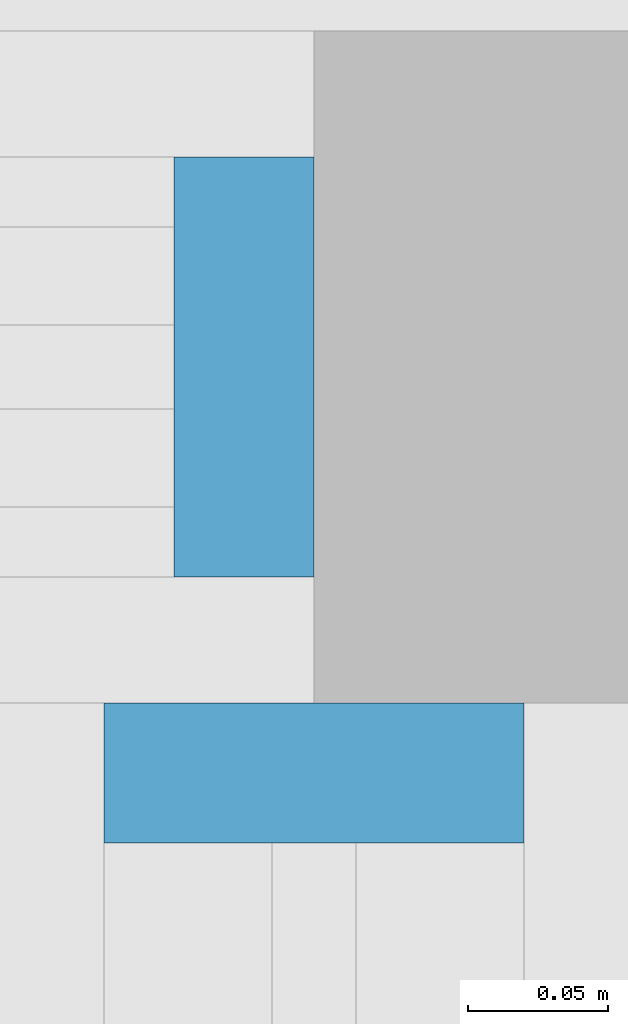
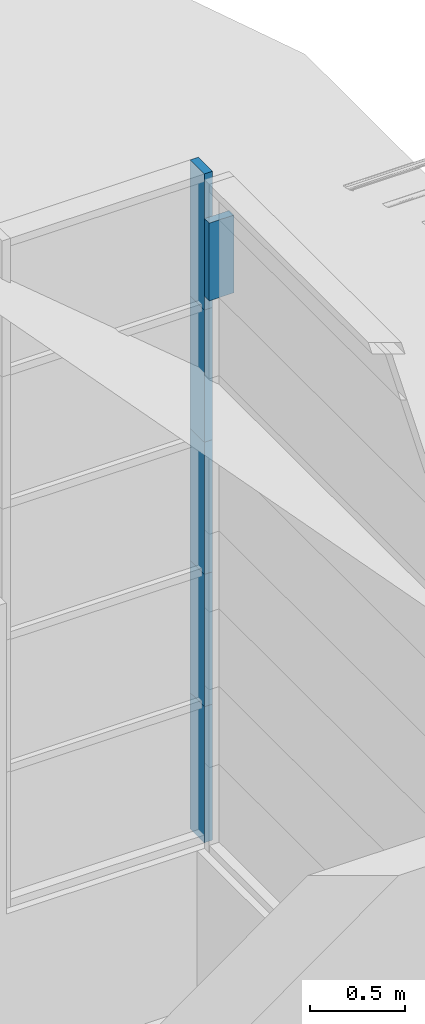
# One storey, part 33 of 82: 6 members, 2 elements without a shape of their own.
"""IFC2X3 building model written with IfcOpenShell, lengths in millimetres."""

from ifc_helpers import new_model, entity, si_unit, converted_unit, derived_unit, direction, frame, origin, origin_2d_with_axis, place, context, subcontext, project, spatial, rectangle, extrude, source, transform, mapped, material, type_object, type_shapes, element, aggregate, save


model = new_model("IFC2X3")

# Units and contexts
model_context = context("Model", 3, precision=0.01, world=origin(), true_north=direction((6.12303176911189e-17, 1.0)))
body_context = subcontext(model_context, "Body", "Model", "MODEL_VIEW")
ifc_project = project(units=[si_unit("LENGTHUNIT", "METRE", prefix="MILLI"), si_unit("AREAUNIT", "SQUARE_METRE"), si_unit("VOLUMEUNIT", "CUBIC_METRE"), converted_unit("PLANEANGLEUNIT", "DEGREE", entity("IfcRatioMeasure", 0.0174532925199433), si_unit("PLANEANGLEUNIT", "RADIAN"), dimensions=[0, 0, 0, 0, 0, 0, 0]), si_unit("MASSUNIT", "GRAM", prefix="KILO"), derived_unit("MASSDENSITYUNIT", [(si_unit("MASSUNIT", "GRAM", prefix="KILO"), 1), (si_unit("LENGTHUNIT", "METRE"), -3)]), si_unit("TIMEUNIT", "SECOND"), si_unit("FREQUENCYUNIT", "HERTZ"), si_unit("THERMODYNAMICTEMPERATUREUNIT", "DEGREE_CELSIUS"), derived_unit("THERMALTRANSMITTANCEUNIT", [(si_unit("MASSUNIT", "GRAM", prefix="KILO"), 1), (si_unit("THERMODYNAMICTEMPERATUREUNIT", "KELVIN"), -1), (si_unit("TIMEUNIT", "SECOND"), -3)]), derived_unit("VOLUMETRICFLOWRATEUNIT", [(si_unit("LENGTHUNIT", "METRE"), 3), (si_unit("TIMEUNIT", "SECOND"), -1)]), si_unit("ELECTRICCURRENTUNIT", "AMPERE"), si_unit("ELECTRICVOLTAGEUNIT", "VOLT"), si_unit("POWERUNIT", "WATT"), si_unit("FORCEUNIT", "NEWTON", prefix="KILO"), si_unit("ILLUMINANCEUNIT", "LUX"), si_unit("LUMINOUSFLUXUNIT", "LUMEN"), si_unit("LUMINOUSINTENSITYUNIT", "CANDELA"), derived_unit("USERDEFINED", [(si_unit("MASSUNIT", "GRAM", prefix="KILO"), -1), (si_unit("LENGTHUNIT", "METRE"), -2), (si_unit("TIMEUNIT", "SECOND"), 3), (si_unit("LUMINOUSFLUXUNIT", "LUMEN"), 1)]), derived_unit("LINEARVELOCITYUNIT", [(si_unit("LENGTHUNIT", "METRE"), 1), (si_unit("TIMEUNIT", "SECOND"), -1)]), si_unit("PRESSUREUNIT", "PASCAL"), derived_unit("USERDEFINED", [(si_unit("LENGTHUNIT", "METRE"), -2), (si_unit("MASSUNIT", "GRAM", prefix="KILO"), 1), (si_unit("TIMEUNIT", "SECOND"), -2)])], contexts=[model_context])

# Site, building, storey
site_placement = place(None, origin())
site = spatial("IfcSite", under=ifc_project, at=site_placement, Name="表面", CompositionType="ELEMENT")
building_placement = place(site_placement, origin())
building = spatial("IfcBuilding", under=site, at=building_placement, CompositionType="ELEMENT")
storey_placement = place(building_placement, origin())
storey = spatial("IfcBuildingStorey", under=building, at=storey_placement, Name="1F", CompositionType="ELEMENT", Elevation=0.0)

# Curtain wall, member
curtain_wall_type_1 = type_object("IfcCurtainWallType", Name="幕墙:幕墙 1", PredefinedType="NOTDEFINED")
curtain_wall_1_placement = place(storey_placement, origin())
curtain_wall_1 = element("IfcCurtainWall", 1, at=curtain_wall_1_placement, inside=storey, type_object=curtain_wall_type_1, Name="幕墙:幕墙 1", ObjectType="幕墙:幕墙 1")
ifc_material = material(Name="金属 - 铝")
member_type_1 = type_object("IfcMemberType", Name="50 x 150mm", PredefinedType="MEMBER")
shared_shape_1 = source(origin(), body_context, "Body", "SweptSolid", [
    extrude(rectangle(XDim=150.0, YDim=50.0, at=origin_2d_with_axis()), frame((-25.0, 0.0, -500.0), z_axis=(0.0, 0.0, 1.0), x_axis=(0.0, -1.0, 0.0)), (0.0, 0.0, 1.0), 500.0),
])
type_shapes(member_type_1, [shared_shape_1])
member_1_placement = place(storey_placement, frame((-5230.24991264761, -2436.868426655, 5050.0), z_axis=(0.0, 0.0, 1.0), x_axis=(0.0, 1.0, 0.0)))
member_1 = element("IfcMember", 2, at=member_1_placement, type_object=member_type_1, material=ifc_material, Name="矩形竖梃:50 x 150mm", ObjectType="50 x 150mm", context=body_context, shape_type="MappedRepresentation", body=[
    mapped(shared_shape_1, transform((0.0, 0.0, 0.0), scale=1.0)),
])
aggregate(curtain_wall_1, [member_1])

# Curtain wall, members
curtain_wall_type_2 = type_object("IfcCurtainWallType", Name="幕墙:幕墙 5", PredefinedType="NOTDEFINED")
curtain_wall_2_placement = place(storey_placement, origin())
curtain_wall_2 = element("IfcCurtainWall", 3, at=curtain_wall_2_placement, inside=storey, type_object=curtain_wall_type_2, Name="幕墙:幕墙 5", ObjectType="幕墙:幕墙 5")
member_type_2 = type_object("IfcMemberType", Name="50 x 150mm", PredefinedType="MEMBER")
shared_shape_2 = source(origin(), body_context, "Body", "SweptSolid", [
    extrude(rectangle(XDim=150.0, YDim=50.0, at=origin_2d_with_axis()), frame((-25.0, 0.0, -875.0), z_axis=(0.0, 0.0, 1.0), x_axis=(0.0, -1.0, 0.0)), (0.0, 0.0, 1.0), 875.0),
])
type_shapes(member_type_2, [shared_shape_2])
member_2_placement = place(storey_placement, frame((-5230.24991264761, -2316.868426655, 1000.0), z_axis=(0.0, 0.0, -1.0), x_axis=(1.0, 0.0, 0.0)))
member_2 = element("IfcMember", 4, at=member_2_placement, type_object=member_type_2, material=ifc_material, Name="矩形竖梃:50 x 150mm", ObjectType="50 x 150mm", context=body_context, shape_type="MappedRepresentation", body=[
    mapped(shared_shape_2, transform((0.0, 0.0, 0.0), scale=1.0)),
])
member_type_3 = type_object("IfcMemberType", Name="50 x 150mm", PredefinedType="MEMBER")
shared_shape_3 = source(origin(), body_context, "Body", "SweptSolid", [
    extrude(rectangle(XDim=150.0, YDim=50.0, at=origin_2d_with_axis()), frame((-25.0, 0.0, -850.0), z_axis=(0.0, 0.0, 1.0), x_axis=(0.0, -1.0, 0.0)), (0.0, 0.0, 1.0), 850.0),
])
type_shapes(member_type_3, [shared_shape_3])
member_3_placement = place(storey_placement, frame((-5230.24991264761, -2316.868426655, 1875.0), z_axis=(0.0, 0.0, -1.0), x_axis=(1.0, 0.0, 0.0)))
member_3 = element("IfcMember", 5, at=member_3_placement, type_object=member_type_3, material=ifc_material, Name="矩形竖梃:50 x 150mm", ObjectType="50 x 150mm", context=body_context, shape_type="MappedRepresentation", body=[
    mapped(shared_shape_3, transform((0.0, 0.0, 0.0), scale=1.0)),
])
member_4_placement = place(storey_placement, frame((-5230.24991264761, -2316.868426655, 2725.0), z_axis=(0.0, 0.0, -1.0), x_axis=(1.0, 0.0, 0.0)))
member_4 = element("IfcMember", 6, at=member_4_placement, type_object=member_type_3, material=ifc_material, Name="矩形竖梃:50 x 150mm", ObjectType="50 x 150mm", context=body_context, shape_type="MappedRepresentation", body=[
    mapped(shared_shape_3, transform((0.0, 0.0, 0.0), scale=1.0)),
])
member_5_placement = place(storey_placement, frame((-5230.24991264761, -2316.868426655, 3575.0), z_axis=(0.0, 0.0, -1.0), x_axis=(1.0, 0.0, 0.0)))
member_5 = element("IfcMember", 7, at=member_5_placement, type_object=member_type_3, material=ifc_material, Name="矩形竖梃:50 x 150mm", ObjectType="50 x 150mm", context=body_context, shape_type="MappedRepresentation", body=[
    mapped(shared_shape_3, transform((0.0, 0.0, 0.0), scale=1.0)),
])
member_type_4 = type_object("IfcMemberType", Name="50 x 150mm", PredefinedType="MEMBER")
shared_shape_4 = source(origin(), body_context, "Body", "SweptSolid", [
    extrude(rectangle(XDim=150.0, YDim=50.0, at=origin_2d_with_axis()), frame((-25.0, 0.0, -875.0), z_axis=(0.0, 0.0, 1.0), x_axis=(0.0, -1.0, 0.0)), (0.0, 0.0, 1.0), 875.0),
])
type_shapes(member_type_4, [shared_shape_4])
member_6_placement = place(storey_placement, frame((-5230.24991264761, -2316.868426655, 4425.0), z_axis=(0.0, 0.0, -1.0), x_axis=(1.0, 0.0, 0.0)))
member_6 = element("IfcMember", 8, at=member_6_placement, type_object=member_type_4, material=ifc_material, Name="矩形竖梃:50 x 150mm", ObjectType="50 x 150mm", context=body_context, shape_type="MappedRepresentation", body=[
    mapped(shared_shape_4, transform((0.0, 0.0, 0.0), scale=1.0)),
])
aggregate(curtain_wall_2, [member_2, member_3, member_4, member_5, member_6])

save(model, "model.ifc")
